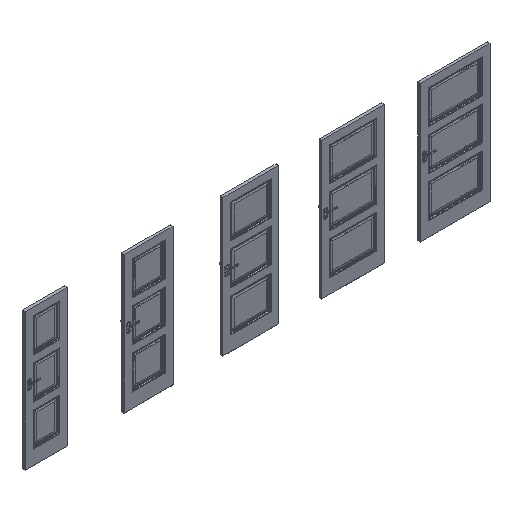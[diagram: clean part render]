
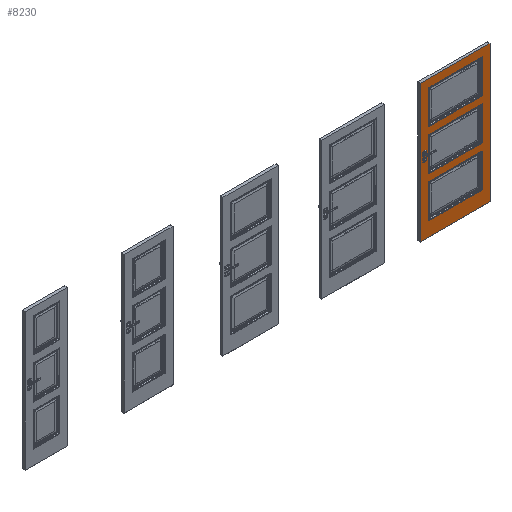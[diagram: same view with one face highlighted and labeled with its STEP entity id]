
A CAD part, isometric view. The second image highlights one B-rep face of the part: STEP entity #8230.
In plain terms, the highlighted planar face has unit normal (0, -1, 0).
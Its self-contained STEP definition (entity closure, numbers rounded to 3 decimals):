
#2518=B_SPLINE_CURVE_WITH_KNOTS('',3,(#114068,#114069,#114070,#114071),
 .UNSPECIFIED.,.F.,.F.,(4,4),(0.,1.),.UNSPECIFIED.);
#2519=B_SPLINE_CURVE_WITH_KNOTS('',3,(#114076,#114077,#114078,#114079),
 .UNSPECIFIED.,.F.,.F.,(4,4),(0.,1.),.UNSPECIFIED.);
#2520=B_SPLINE_CURVE_WITH_KNOTS('',3,(#114081,#114082,#114083,#114084),
 .UNSPECIFIED.,.F.,.F.,(4,4),(0.,1.),.UNSPECIFIED.);
#2521=B_SPLINE_CURVE_WITH_KNOTS('',3,(#114086,#114087,#114088,#114089),
 .UNSPECIFIED.,.F.,.F.,(4,4),(0.,1.),.UNSPECIFIED.);
#2522=B_SPLINE_CURVE_WITH_KNOTS('',3,(#114090,#114091,#114092,#114093),
 .UNSPECIFIED.,.F.,.F.,(4,4),(0.,1.),.UNSPECIFIED.);
#2523=B_SPLINE_CURVE_WITH_KNOTS('',3,(#114098,#114099,#114100,#114101),
 .UNSPECIFIED.,.F.,.F.,(4,4),(0.,1.),.UNSPECIFIED.);
#2524=B_SPLINE_CURVE_WITH_KNOTS('',3,(#114103,#114104,#114105,#114106),
 .UNSPECIFIED.,.F.,.F.,(4,4),(0.,1.),.UNSPECIFIED.);
#2525=B_SPLINE_CURVE_WITH_KNOTS('',3,(#114108,#114109,#114110,#114111),
 .UNSPECIFIED.,.F.,.F.,(4,4),(0.,1.),.UNSPECIFIED.);
#2526=B_SPLINE_CURVE_WITH_KNOTS('',3,(#114112,#114113,#114114,#114115),
 .UNSPECIFIED.,.F.,.F.,(4,4),(0.,1.),.UNSPECIFIED.);
#2527=B_SPLINE_CURVE_WITH_KNOTS('',3,(#114120,#114121,#114122,#114123),
 .UNSPECIFIED.,.F.,.F.,(4,4),(0.,1.),.UNSPECIFIED.);
#2528=B_SPLINE_CURVE_WITH_KNOTS('',3,(#114125,#114126,#114127,#114128),
 .UNSPECIFIED.,.F.,.F.,(4,4),(0.,1.),.UNSPECIFIED.);
#2529=B_SPLINE_CURVE_WITH_KNOTS('',3,(#114130,#114131,#114132,#114133),
 .UNSPECIFIED.,.F.,.F.,(4,4),(0.,1.),.UNSPECIFIED.);
#8230=ADVANCED_FACE('',(#11662,#11663,#11664,#11665),#10241,.F.);
#10241=PLANE('',#49025);
#11662=FACE_BOUND('',#13785,.T.);
#11663=FACE_BOUND('',#13786,.T.);
#11664=FACE_BOUND('',#13787,.T.);
#11665=FACE_BOUND('',#13788,.T.);
#13785=EDGE_LOOP('',(#24010,#24011,#24012,#24013));
#13786=EDGE_LOOP('',(#24014,#24015,#24016,#24017,#24018));
#13787=EDGE_LOOP('',(#24019,#24020,#24021,#24022,#24023));
#13788=EDGE_LOOP('',(#24024,#24025,#24026,#24027,#24028));
#24010=ORIENTED_EDGE('',*,*,#37160,.T.);
#24011=ORIENTED_EDGE('',*,*,#37161,.T.);
#24012=ORIENTED_EDGE('',*,*,#37162,.F.);
#24013=ORIENTED_EDGE('',*,*,#37163,.F.);
#24014=ORIENTED_EDGE('',*,*,#37164,.F.);
#24015=ORIENTED_EDGE('',*,*,#37165,.F.);
#24016=ORIENTED_EDGE('',*,*,#37166,.F.);
#24017=ORIENTED_EDGE('',*,*,#37167,.F.);
#24018=ORIENTED_EDGE('',*,*,#37168,.F.);
#24019=ORIENTED_EDGE('',*,*,#37169,.F.);
#24020=ORIENTED_EDGE('',*,*,#37170,.F.);
#24021=ORIENTED_EDGE('',*,*,#37171,.F.);
#24022=ORIENTED_EDGE('',*,*,#37172,.F.);
#24023=ORIENTED_EDGE('',*,*,#37173,.F.);
#24024=ORIENTED_EDGE('',*,*,#37174,.F.);
#24025=ORIENTED_EDGE('',*,*,#37175,.F.);
#24026=ORIENTED_EDGE('',*,*,#37176,.F.);
#24027=ORIENTED_EDGE('',*,*,#37177,.F.);
#24028=ORIENTED_EDGE('',*,*,#37178,.F.);
#31246=VERTEX_POINT('',#114061);
#31247=VERTEX_POINT('',#114062);
#31248=VERTEX_POINT('',#114064);
#31249=VERTEX_POINT('',#114066);
#31250=VERTEX_POINT('',#114072);
#31251=VERTEX_POINT('',#114073);
#31252=VERTEX_POINT('',#114075);
#31253=VERTEX_POINT('',#114080);
#31254=VERTEX_POINT('',#114085);
#31255=VERTEX_POINT('',#114094);
#31256=VERTEX_POINT('',#114095);
#31257=VERTEX_POINT('',#114097);
#31258=VERTEX_POINT('',#114102);
#31259=VERTEX_POINT('',#114107);
#31260=VERTEX_POINT('',#114116);
#31261=VERTEX_POINT('',#114117);
#31262=VERTEX_POINT('',#114119);
#31263=VERTEX_POINT('',#114124);
#31264=VERTEX_POINT('',#114129);
#37160=EDGE_CURVE('',#31246,#31247,#42220,.T.);
#37161=EDGE_CURVE('',#31247,#31248,#42221,.T.);
#37162=EDGE_CURVE('',#31249,#31248,#42222,.T.);
#37163=EDGE_CURVE('',#31246,#31249,#42223,.T.);
#37164=EDGE_CURVE('',#31250,#31251,#2518,.T.);
#37165=EDGE_CURVE('',#31252,#31250,#42224,.T.);
#37166=EDGE_CURVE('',#31253,#31252,#2519,.T.);
#37167=EDGE_CURVE('',#31254,#31253,#2520,.T.);
#37168=EDGE_CURVE('',#31251,#31254,#2521,.T.);
#37169=EDGE_CURVE('',#31255,#31256,#2522,.T.);
#37170=EDGE_CURVE('',#31257,#31255,#42225,.T.);
#37171=EDGE_CURVE('',#31258,#31257,#2523,.T.);
#37172=EDGE_CURVE('',#31259,#31258,#2524,.T.);
#37173=EDGE_CURVE('',#31256,#31259,#2525,.T.);
#37174=EDGE_CURVE('',#31260,#31261,#2526,.T.);
#37175=EDGE_CURVE('',#31262,#31260,#42226,.T.);
#37176=EDGE_CURVE('',#31263,#31262,#2527,.T.);
#37177=EDGE_CURVE('',#31264,#31263,#2528,.T.);
#37178=EDGE_CURVE('',#31261,#31264,#2529,.T.);
#42220=LINE('',#114060,#46289);
#42221=LINE('',#114063,#46290);
#42222=LINE('',#114065,#46291);
#42223=LINE('',#114067,#46292);
#42224=LINE('',#114074,#46293);
#42225=LINE('',#114096,#46294);
#42226=LINE('',#114118,#46295);
#46289=VECTOR('',#55906,1.);
#46290=VECTOR('',#55907,1.);
#46291=VECTOR('',#55908,1.);
#46292=VECTOR('',#55909,1.);
#46293=VECTOR('',#55910,1.);
#46294=VECTOR('',#55911,1.);
#46295=VECTOR('',#55912,1.);
#49025=AXIS2_PLACEMENT_3D('',#114134,#55913,#55914);
#55906=DIRECTION('',(0.,0.,-1.));
#55907=DIRECTION('',(1.,0.,0.));
#55908=DIRECTION('',(0.,0.,-1.));
#55909=DIRECTION('',(1.,0.,0.));
#55910=DIRECTION('',(-1.,0.,0.));
#55911=DIRECTION('',(-1.,0.,0.));
#55912=DIRECTION('',(-1.,0.,0.));
#55913=DIRECTION('',(0.,1.,0.));
#55914=DIRECTION('',(-1.,0.,0.));
#114060=CARTESIAN_POINT('',(5491.,-39.3,2017.));
#114061=CARTESIAN_POINT('',(5491.,-39.3,2017.));
#114062=CARTESIAN_POINT('',(5491.,-39.3,2.));
#114063=CARTESIAN_POINT('',(5691.,-39.3,2.));
#114064=CARTESIAN_POINT('',(6509.,-39.3,2.));
#114065=CARTESIAN_POINT('',(6509.,-39.3,2017.));
#114066=CARTESIAN_POINT('',(6509.,-39.3,2017.));
#114067=CARTESIAN_POINT('',(5691.,-39.3,2017.));
#114068=CARTESIAN_POINT('',(5607.5,-39.3,704.5));
#114069=CARTESIAN_POINT('',(5607.5,-39.3,541.5));
#114070=CARTESIAN_POINT('',(5607.5,-39.3,378.5));
#114071=CARTESIAN_POINT('',(5607.5,-39.3,215.5));
#114072=CARTESIAN_POINT('',(5607.499,-39.3,704.501));
#114073=CARTESIAN_POINT('',(5607.498,-39.3,215.499));
#114074=CARTESIAN_POINT('',(5903.75,-39.3,704.5));
#114075=CARTESIAN_POINT('',(6392.502,-39.3,704.501));
#114076=CARTESIAN_POINT('',(6392.5,-39.3,215.5));
#114077=CARTESIAN_POINT('',(6392.5,-39.3,378.5));
#114078=CARTESIAN_POINT('',(6392.5,-39.3,541.5));
#114079=CARTESIAN_POINT('',(6392.5,-39.3,704.5));
#114080=CARTESIAN_POINT('',(6392.501,-39.3,215.499));
#114081=CARTESIAN_POINT('',(6000.,-39.3,215.5));
#114082=CARTESIAN_POINT('',(6130.833,-39.3,215.5));
#114083=CARTESIAN_POINT('',(6261.667,-39.3,215.5));
#114084=CARTESIAN_POINT('',(6392.5,-39.3,215.5));
#114085=CARTESIAN_POINT('',(6000.,-39.3,215.5));
#114086=CARTESIAN_POINT('',(5607.497,-39.3,215.497));
#114087=CARTESIAN_POINT('',(5738.333,-39.3,215.498));
#114088=CARTESIAN_POINT('',(5869.167,-39.3,215.499));
#114089=CARTESIAN_POINT('',(6000.,-39.3,215.5));
#114090=CARTESIAN_POINT('',(5607.5,-39.3,1302.5));
#114091=CARTESIAN_POINT('',(5607.5,-39.3,1139.5));
#114092=CARTESIAN_POINT('',(5607.5,-39.3,976.5));
#114093=CARTESIAN_POINT('',(5607.5,-39.3,813.5));
#114094=CARTESIAN_POINT('',(5607.499,-39.3,1302.501));
#114095=CARTESIAN_POINT('',(5607.498,-39.3,813.499));
#114096=CARTESIAN_POINT('',(5903.75,-39.3,1302.5));
#114097=CARTESIAN_POINT('',(6392.502,-39.3,1302.501));
#114098=CARTESIAN_POINT('',(6392.5,-39.3,813.5));
#114099=CARTESIAN_POINT('',(6392.5,-39.3,976.5));
#114100=CARTESIAN_POINT('',(6392.5,-39.3,1139.5));
#114101=CARTESIAN_POINT('',(6392.5,-39.3,1302.5));
#114102=CARTESIAN_POINT('',(6392.501,-39.3,813.499));
#114103=CARTESIAN_POINT('',(6000.,-39.3,813.5));
#114104=CARTESIAN_POINT('',(6130.833,-39.3,813.5));
#114105=CARTESIAN_POINT('',(6261.667,-39.3,813.5));
#114106=CARTESIAN_POINT('',(6392.5,-39.3,813.5));
#114107=CARTESIAN_POINT('',(6000.,-39.3,813.5));
#114108=CARTESIAN_POINT('',(5607.497,-39.3,813.497));
#114109=CARTESIAN_POINT('',(5738.333,-39.3,813.498));
#114110=CARTESIAN_POINT('',(5869.167,-39.3,813.499));
#114111=CARTESIAN_POINT('',(6000.,-39.3,813.5));
#114112=CARTESIAN_POINT('',(5607.5,-39.3,1900.5));
#114113=CARTESIAN_POINT('',(5607.5,-39.3,1737.5));
#114114=CARTESIAN_POINT('',(5607.5,-39.3,1574.5));
#114115=CARTESIAN_POINT('',(5607.5,-39.3,1411.5));
#114116=CARTESIAN_POINT('',(5607.499,-39.3,1900.501));
#114117=CARTESIAN_POINT('',(5607.498,-39.3,1411.499));
#114118=CARTESIAN_POINT('',(5903.75,-39.3,1900.5));
#114119=CARTESIAN_POINT('',(6392.502,-39.3,1900.501));
#114120=CARTESIAN_POINT('',(6392.5,-39.3,1411.5));
#114121=CARTESIAN_POINT('',(6392.5,-39.3,1574.5));
#114122=CARTESIAN_POINT('',(6392.5,-39.3,1737.5));
#114123=CARTESIAN_POINT('',(6392.5,-39.3,1900.5));
#114124=CARTESIAN_POINT('',(6392.501,-39.3,1411.499));
#114125=CARTESIAN_POINT('',(6000.,-39.3,1411.5));
#114126=CARTESIAN_POINT('',(6130.833,-39.3,1411.5));
#114127=CARTESIAN_POINT('',(6261.667,-39.3,1411.5));
#114128=CARTESIAN_POINT('',(6392.5,-39.3,1411.5));
#114129=CARTESIAN_POINT('',(6000.,-39.3,1411.5));
#114130=CARTESIAN_POINT('',(5607.497,-39.3,1411.497));
#114131=CARTESIAN_POINT('',(5738.333,-39.3,1411.498));
#114132=CARTESIAN_POINT('',(5869.167,-39.3,1411.499));
#114133=CARTESIAN_POINT('',(6000.,-39.3,1411.5));
#114134=CARTESIAN_POINT('',(5691.,-39.3,2017.));
